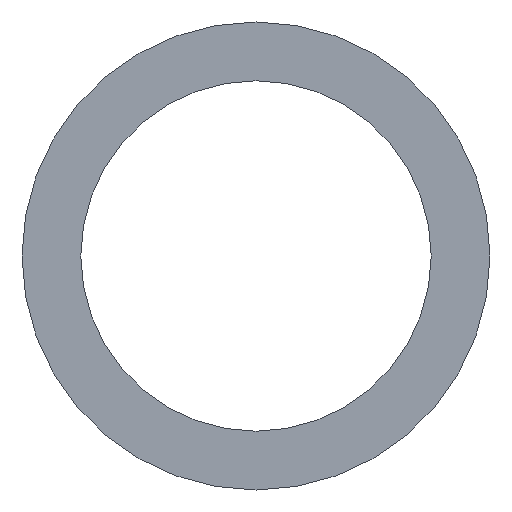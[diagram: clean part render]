
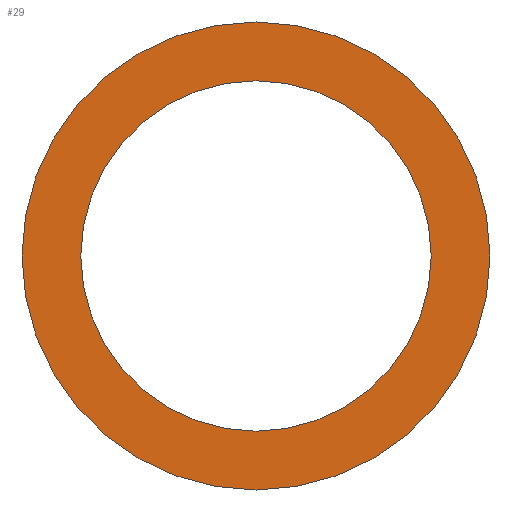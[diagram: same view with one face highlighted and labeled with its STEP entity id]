
A CAD part, front view. The second image highlights one B-rep face of the part: STEP entity #29.
In plain terms, the highlighted planar face has unit normal (0, -1, 0).
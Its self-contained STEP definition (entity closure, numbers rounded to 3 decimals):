
#21=FACE_BOUND('',#50,.F.);
#23=PLANE('',#264);
#29=ADVANCED_FACE('',(#21,#39),#23,.T.);
#39=FACE_OUTER_BOUND('',#51,.F.);
#50=EDGE_LOOP('',(#76,#77));
#51=EDGE_LOOP('',(#78,#79));
#76=ORIENTED_EDGE('',*,*,#124,.T.);
#77=ORIENTED_EDGE('',*,*,#131,.T.);
#78=ORIENTED_EDGE('',*,*,#123,.F.);
#79=ORIENTED_EDGE('',*,*,#130,.F.);
#123=EDGE_CURVE('',#155,#154,#143,.T.);
#124=EDGE_CURVE('',#153,#152,#144,.T.);
#130=EDGE_CURVE('',#154,#155,#146,.T.);
#131=EDGE_CURVE('',#152,#153,#147,.T.);
#143=CIRCLE('',#252,0.915);
#144=CIRCLE('',#253,0.685);
#146=CIRCLE('',#255,0.915);
#147=CIRCLE('',#256,0.685);
#152=VERTEX_POINT('',#335);
#153=VERTEX_POINT('',#336);
#154=VERTEX_POINT('',#337);
#155=VERTEX_POINT('',#338);
#252=AXIS2_PLACEMENT_3D('',#350,#285,#286);
#253=AXIS2_PLACEMENT_3D('',#351,#287,#288);
#255=AXIS2_PLACEMENT_3D('',#357,#295,#296);
#256=AXIS2_PLACEMENT_3D('',#358,#297,#298);
#264=AXIS2_PLACEMENT_3D('',#370,#317,#318);
#285=DIRECTION('',(0.,-1.,0.));
#286=DIRECTION('',(0.,0.,-1.));
#287=DIRECTION('',(0.,-1.,0.));
#288=DIRECTION('',(0.,0.,-1.));
#295=DIRECTION('',(0.,-1.,0.));
#296=DIRECTION('',(0.,0.,1.));
#297=DIRECTION('',(0.,-1.,0.));
#298=DIRECTION('',(0.,0.,1.));
#317=DIRECTION('',(0.,-1.,0.));
#318=DIRECTION('',(-1.,0.,0.));
#335=CARTESIAN_POINT('',(195.,-23.275,222.46));
#336=CARTESIAN_POINT('',(195.,-23.275,221.09));
#337=CARTESIAN_POINT('',(195.,-23.275,222.69));
#338=CARTESIAN_POINT('',(195.,-23.275,220.86));
#350=CARTESIAN_POINT('',(195.,-23.275,221.775));
#351=CARTESIAN_POINT('',(195.,-23.275,221.775));
#357=CARTESIAN_POINT('',(195.,-23.275,221.775));
#358=CARTESIAN_POINT('',(195.,-23.275,221.775));
#370=CARTESIAN_POINT('',(195.933,-23.275,222.708));
